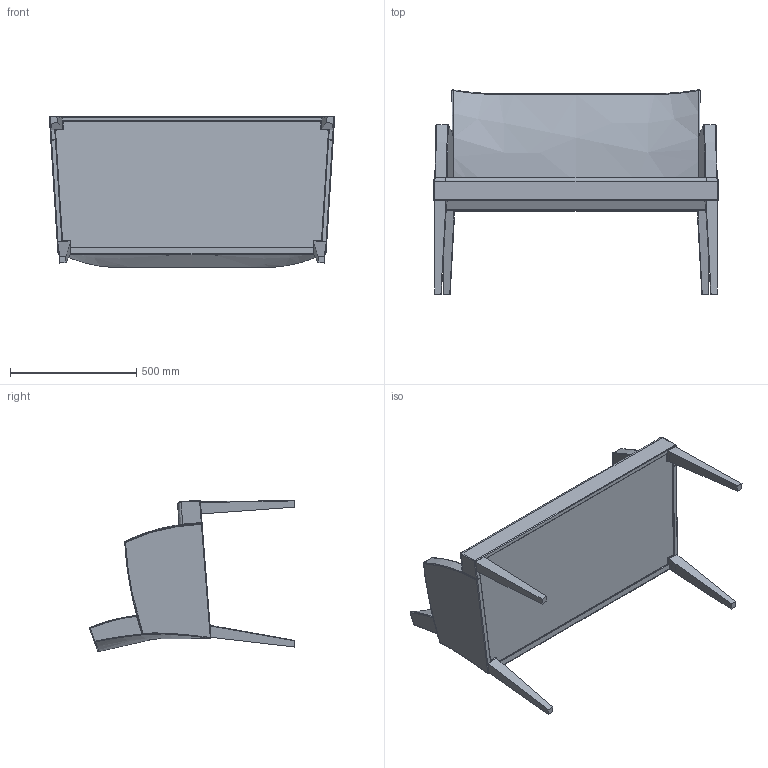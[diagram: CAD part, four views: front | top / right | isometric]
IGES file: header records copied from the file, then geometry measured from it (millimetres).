
Start section: SolidWorks IGES file using analytic representation for surfaces
Global section: file name: C:\Users\Adao\Documents\Trab Adao\Desenho técnico PRODUÇÃO\J M S\CASSIS\Linha CASSIS (sat)\Cadeirão M-280 D.IGS; native system: SolidWorks 2012; preprocessor: SolidWorks 2012; author: Adao; date: 121027.104507; units: millimetre
Bounding box: 1129.6 x 810.18 x 598.12 mm (x, y, z)
Surface area: 3995070.4 mm2 (no closed solid volume)
Topology: 0 solids, 0 shells, 261 faces, 2231 edges, 2215 vertices
Faces by surface type: bspline 172, revolution 89
